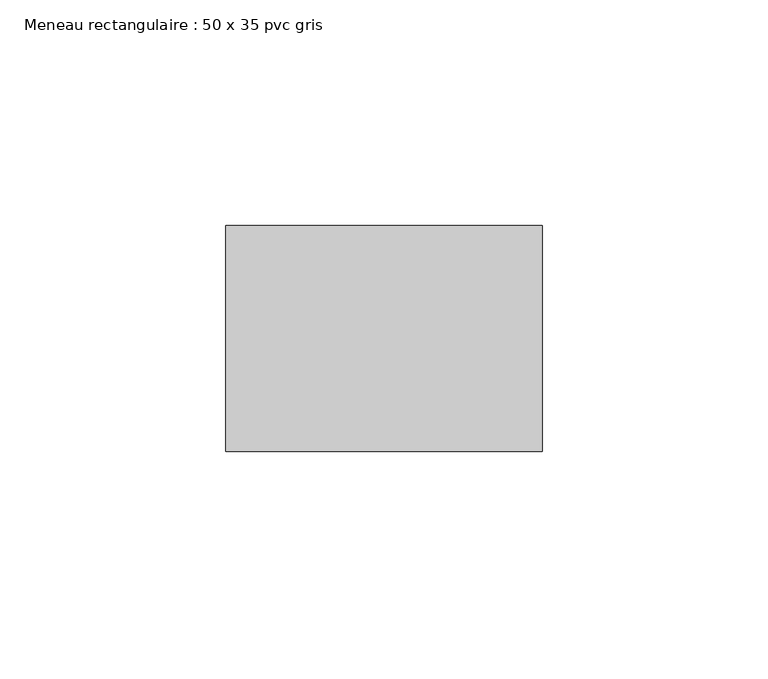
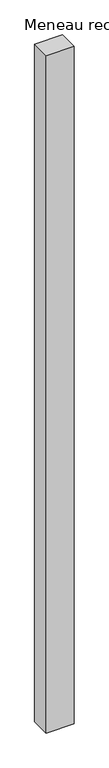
"""IFC4 building model written with IfcOpenShell, lengths in millimetres: member geometry, Meneau rectangulaire : 50 x 35 pvc gris."""

from ifc_helpers import new_model, si_unit, frame, origin, place, context, project, spatial, polyline, outline, extrude, source, transform, mapped, element, save


def meneau_rectangulaire_50_x_35_pvc_gris_7d985c18(model_context):
    return source(origin(), model_context, "Body", "SweptSolid", [
        extrude(outline(polyline([(0.0, 0.0), (0.0, -50.0), (-70.0, -50.0), (-70.0, 0.0), (0.0, 0.0)])), frame((0.0, 0.0, -1801.1144531), z_axis=(0.0, 0.0, 1.0), x_axis=(1.0, 0.0, 0.0)), (0.0, 0.0, 1.0), 1801.1144531),
    ])


if __name__ == "__main__":
    model = new_model("IFC4")
    model_context = context("Model", 3, world=origin())
    ifc_project = project(units=[si_unit("LENGTHUNIT", "METRE", prefix="MILLI")], contexts=[model_context])
    site = spatial("IfcSite", under=ifc_project)
    building = spatial("IfcBuilding", under=site)
    placement = place(None, origin())
    meneau_rectangulaire_50_x_35_pvc_gris_shape = meneau_rectangulaire_50_x_35_pvc_gris_7d985c18(model_context)
    element("IfcMember", 1, ObjectType="Meneau rectangulaire : 50 x 35 pvc gris", at=placement, inside=building, context=model_context, shape_type="MappedRepresentation", body=[
        mapped(meneau_rectangulaire_50_x_35_pvc_gris_shape, transform((0.0, 0.0, 0.0), x_axis=(1.0, 0.0, 0.0), y_axis=(0.0, 1.0, 0.0), z_axis=(0.0, 0.0, 1.0))),
    ])
    save(model, "model.ifc")
